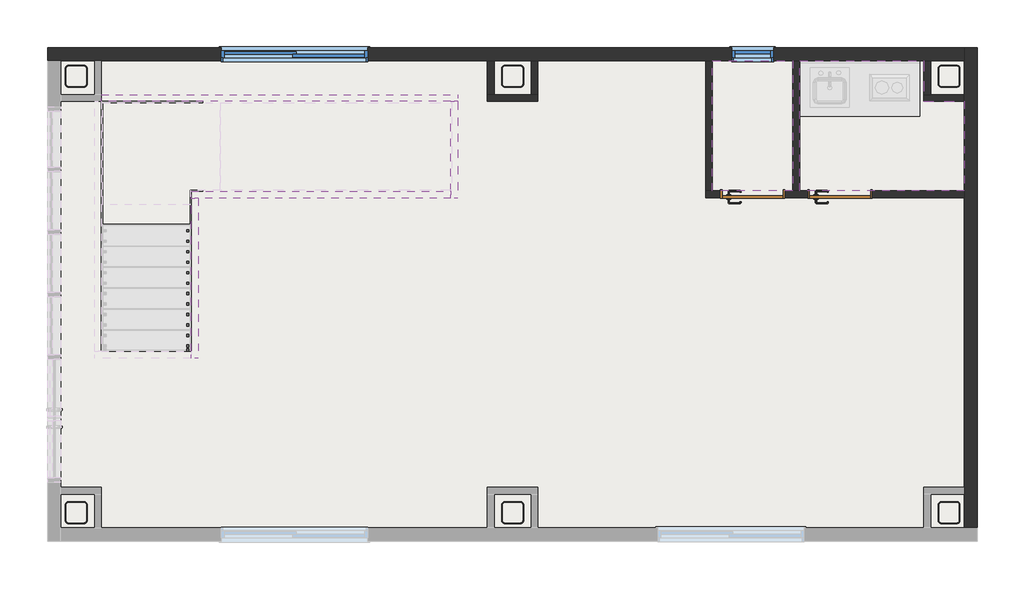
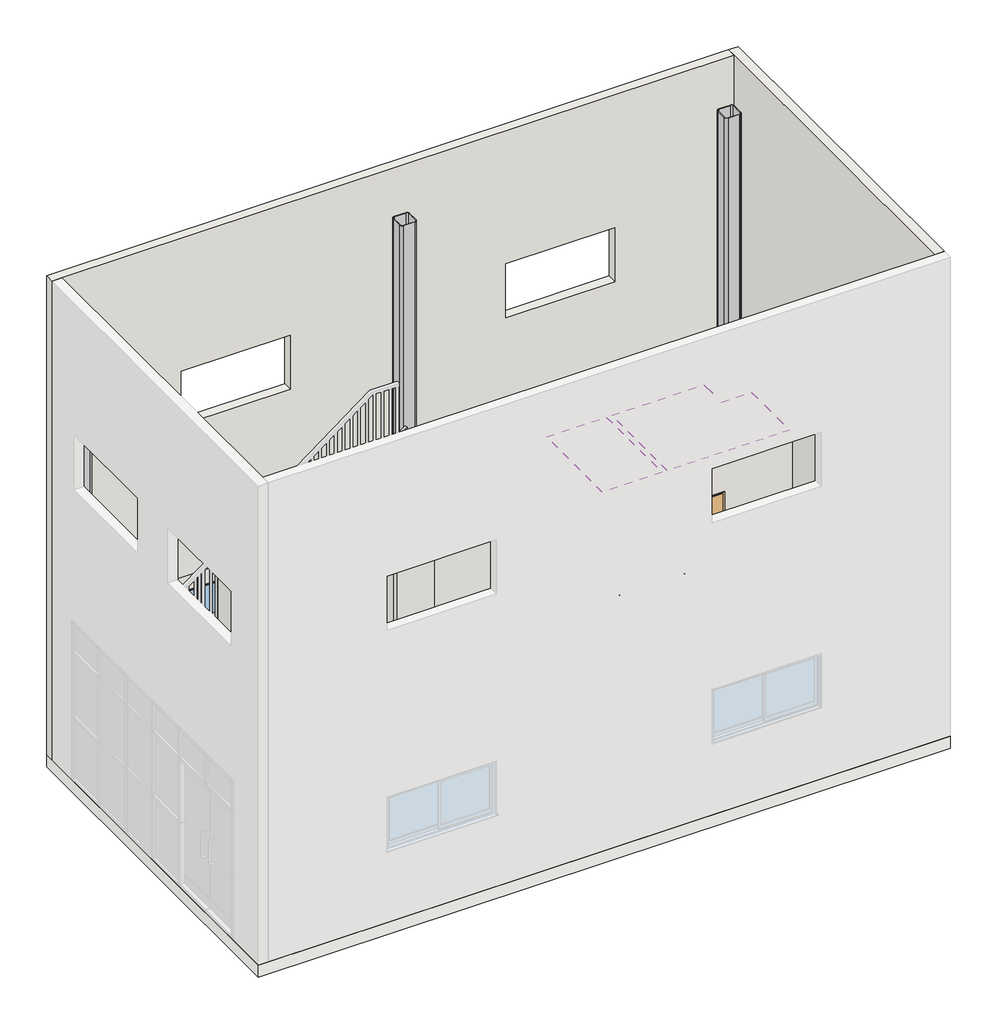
# One storey, part 2 of 3: 14 walls, 6 columns, 2 coverings, 2 doors, 2 windows, 1 railing, 1 slab.
"""IFC4 building model written with IfcOpenShell, lengths in millimetres."""

from ifc_helpers import new_model, si_unit, frame, origin, origin_with_axes, place, context, project, spatial, polyline, outline, extrude, faceted_brep, transform, mapped, element, save
from components import hss250x250x12_d809ddac, w700h2000_2a992a34, w0400h0800_0b9f01bb, w1600h0800_d7cd19be

model = new_model("IFC4")

# Units and contexts
model_context = context("Model", 3, world=origin())
ifc_project = project(units=[si_unit("LENGTHUNIT", "METRE", prefix="MILLI")], contexts=[model_context])

# Site, building, storey
site = spatial("IfcSite", under=ifc_project)
building = spatial("IfcBuilding", under=site)
storey = spatial("IfcBuildingStorey", under=building, Name="1階", Elevation=200.0)

# Columns
placement = place(None, origin())
hss250x250x12_shape = hss250x250x12_d809ddac(model_context)
element("IfcColumn", 1, ObjectType="正方型鋼管-柱 : HSS250x250x12", at=placement, inside=storey, context=model_context, shape_type="MappedRepresentation", body=[
    mapped(hss250x250x12_shape, transform((-5047.3880564, -2413.9617267, 0.0), x_axis=(-1.0, 0.0, 0.0), y_axis=(0.0, -1.0, 0.0), z_axis=(0.0, 0.0, 1.0))),
])
element("IfcColumn", 2, ObjectType="正方型鋼管-柱 : HSS250x250x12", at=placement, inside=storey, context=model_context, shape_type="MappedRepresentation", body=[
    mapped(hss250x250x12_shape, transform((-5047.3880564, 2586.0382733, 0.0), x_axis=(-1.0, 0.0, 0.0), y_axis=(0.0, -1.0, 0.0), z_axis=(0.0, 0.0, 1.0))),
])
element("IfcColumn", 3, ObjectType="正方型鋼管-柱 : HSS250x250x12", at=placement, inside=storey, context=model_context, shape_type="MappedRepresentation", body=[
    mapped(hss250x250x12_shape, transform((-47.3880564, -2413.9617267, 0.0), x_axis=(-1.0, 0.0, 0.0), y_axis=(0.0, -1.0, 0.0), z_axis=(0.0, 0.0, 1.0))),
])
element("IfcColumn", 4, ObjectType="正方型鋼管-柱 : HSS250x250x12", at=placement, inside=storey, context=model_context, shape_type="MappedRepresentation", body=[
    mapped(hss250x250x12_shape, transform((-47.3880564, 2586.0382733, 0.0), x_axis=(-1.0, 0.0, 0.0), y_axis=(0.0, -1.0, 0.0), z_axis=(0.0, 0.0, 1.0))),
])
element("IfcColumn", 5, ObjectType="正方型鋼管-柱 : HSS250x250x12", at=placement, inside=storey, context=model_context, shape_type="MappedRepresentation", body=[
    mapped(hss250x250x12_shape, transform((4952.6119436, -2413.9617267, 0.0), x_axis=(-1.0, 0.0, 0.0), y_axis=(0.0, -1.0, 0.0), z_axis=(0.0, 0.0, 1.0))),
])
element("IfcColumn", 6, ObjectType="正方型鋼管-柱 : HSS250x250x12", at=placement, inside=storey, context=model_context, shape_type="MappedRepresentation", body=[
    mapped(hss250x250x12_shape, transform((4952.6119436, 2586.0382733, 0.0), x_axis=(-1.0, 0.0, 0.0), y_axis=(0.0, -1.0, 0.0), z_axis=(0.0, 0.0, 1.0))),
])

# Coverings
element("IfcCovering", 7, ObjectType="グリッド 600x600mm", at=placement, inside=storey, context=model_context, shape_type="SweptSolid", body=[
    extrude(outline(polyline([(2242.1119436, 2761.0382733), (3163.1119436, 2761.0382733), (3163.1119436, 1275.5382733), (2242.1119436, 1275.5382733), (2242.1119436, 2761.0382733)])), frame((0.0, 0.0, 2800.0), z_axis=(0.0, 0.0, 1.0), x_axis=(1.0, 0.0, 0.0)), (0.0, 0.0, 1.0), 52.0),
])
element("IfcCovering", 8, ObjectType="グリッド 600x600mm", at=placement, inside=storey, context=model_context, shape_type="SweptSolid", body=[
    extrude(outline(polyline([(3242.1119436, 1275.5382733), (3242.1119436, 2761.0382733), (4663.1119436, 2761.0382733), (4663.1119436, 2296.5382733), (5127.6119436, 2296.5382733), (5127.6119436, 1275.5382733), (3242.1119436, 1275.5382733)])), frame((0.0, 0.0, 2800.0), z_axis=(0.0, 0.0, 1.0), x_axis=(1.0, 0.0, 0.0)), (0.0, 0.0, 1.0), 52.0),
])

# Doors
w700h2000_shape = w700h2000_2a992a34(model_context)
element("IfcDoor", 9, ObjectType="片開き : w700h2000", at=placement, inside=storey, context=model_context, shape_type="MappedRepresentation", body=[
    mapped(w700h2000_shape, transform((2702.6119436, 1236.0382733, 200.0), x_axis=(1.0, 0.0, 0.0), y_axis=(0.0, 1.0, 0.0), z_axis=(0.0, 0.0, 1.0))),
])
element("IfcDoor", 10, ObjectType="片開き : w700h2000", at=placement, inside=storey, context=model_context, shape_type="MappedRepresentation", body=[
    mapped(w700h2000_shape, transform((3702.6119436, 1236.0382733, 200.0), x_axis=(1.0, 0.0, 0.0), y_axis=(0.0, 1.0, 0.0), z_axis=(0.0, 0.0, 1.0))),
])

# Railing
element("IfcRailing", 11, ObjectType="1100mm", at=placement, inside=storey, context=model_context, shape_type="SolidModel", body=[
    faceted_brep([(-3793.2880564, -563.9617267, 1480.0), (-3793.2880564, -563.9617267, 1417.5), (-3743.2880564, -563.9617267, 1417.5), (-3743.2880564, -563.9617267, 1480.0), (-3793.2880564, 1116.0382733, 2740.0), (-3793.2880564, 1132.7049399, 2690.0), (-3743.2880564, 1132.7049399, 2690.0), (-3743.2880564, 1116.0382733, 2740.0), (-3793.2880564, 1331.9382733, 2740.0), (-3793.2880564, 1331.9382733, 2690.0), (-3743.2880564, 1281.9382733, 2690.0), (-3743.2880564, 1281.9382733, 2740.0), (-3637.3880564, 1331.9382733, 2740.0), (-3620.7213898, 1331.9382733, 2690.0), (-3620.7213898, 1281.9382733, 2690.0), (-3637.3880564, 1281.9382733, 2740.0), (-3397.3880564, 1331.9382733, 2920.0), (-3367.3880564, 1331.9382733, 2880.0), (-3367.3880564, 1281.9382733, 2880.0), (-3397.3880564, 1281.9382733, 2920.0), (-757.3880564, 1331.9382733, 4900.0), (-757.3880564, 1281.9382733, 4900.0), (-757.3880564, 1281.9382733, 4837.5), (-757.3880564, 1331.9382733, 4837.5)], [[[0, 1, 2, 3]], [[1, 0, 4, 5]], [[2, 1, 5, 6]], [[3, 2, 6, 7]], [[0, 3, 7, 4]], [[5, 4, 8, 9]], [[6, 5, 9, 10]], [[7, 6, 10, 11]], [[4, 7, 11, 8]], [[9, 8, 12, 13]], [[10, 9, 13, 14]], [[11, 10, 14, 15]], [[8, 11, 15, 12]], [[13, 12, 16, 17]], [[14, 13, 17, 18]], [[15, 14, 18, 19]], [[12, 15, 19, 16]], [[20, 21, 22, 23]], [[17, 16, 20, 23]], [[18, 17, 23, 22]], [[19, 18, 22, 21]], [[16, 19, 21, 20]]]),
    extrude(outline(polyline([(4783.125, -829.8880564), (3620.0, -829.8880564), (3620.0, -804.8880564), (4801.875, -804.8880564), (4783.125, -829.8880564)])), frame((0.0, 1294.4382733, 0.0), z_axis=(0.0, 1.0, 0.0), x_axis=(0.0, 0.0, 1.0)), (0.0, 0.0, 1.0), 25.0),
    extrude(outline(polyline([(4693.125, -949.8880564), (3620.0, -949.8880564), (3620.0, -924.8880564), (4711.875, -924.8880564), (4693.125, -949.8880564)])), frame((0.0, 1294.4382733, 0.0), z_axis=(0.0, 1.0, 0.0), x_axis=(0.0, 0.0, 1.0)), (0.0, 0.0, 1.0), 25.0),
    extrude(outline(polyline([(4603.125, -1069.8880564), (3440.0, -1069.8880564), (3440.0, -1044.8880564), (4621.875, -1044.8880564), (4603.125, -1069.8880564)])), frame((0.0, 1294.4382733, 0.0), z_axis=(0.0, 1.0, 0.0), x_axis=(0.0, 0.0, 1.0)), (0.0, 0.0, 1.0), 25.0),
    extrude(outline(polyline([(4513.125, -1189.8880564), (3440.0, -1189.8880564), (3440.0, -1164.8880564), (4531.875, -1164.8880564), (4513.125, -1189.8880564)])), frame((0.0, 1294.4382733, 0.0), z_axis=(0.0, 1.0, 0.0), x_axis=(0.0, 0.0, 1.0)), (0.0, 0.0, 1.0), 25.0),
    extrude(outline(polyline([(4423.125, -1309.8880564), (3260.0, -1309.8880564), (3260.0, -1284.8880564), (4441.875, -1284.8880564), (4423.125, -1309.8880564)])), frame((0.0, 1294.4382733, 0.0), z_axis=(0.0, 1.0, 0.0), x_axis=(0.0, 0.0, 1.0)), (0.0, 0.0, 1.0), 25.0),
    extrude(outline(polyline([(4333.125, -1429.8880564), (3260.0, -1429.8880564), (3260.0, -1404.8880564), (4351.875, -1404.8880564), (4333.125, -1429.8880564)])), frame((0.0, 1294.4382733, 0.0), z_axis=(0.0, 1.0, 0.0), x_axis=(0.0, 0.0, 1.0)), (0.0, 0.0, 1.0), 25.0),
    extrude(outline(polyline([(4243.125, -1549.8880564), (3080.0, -1549.8880564), (3080.0, -1524.8880564), (4261.875, -1524.8880564), (4243.125, -1549.8880564)])), frame((0.0, 1294.4382733, 0.0), z_axis=(0.0, 1.0, 0.0), x_axis=(0.0, 0.0, 1.0)), (0.0, 0.0, 1.0), 25.0),
    extrude(outline(polyline([(4153.125, -1669.8880564), (3080.0, -1669.8880564), (3080.0, -1644.8880564), (4171.875, -1644.8880564), (4153.125, -1669.8880564)])), frame((0.0, 1294.4382733, 0.0), z_axis=(0.0, 1.0, 0.0), x_axis=(0.0, 0.0, 1.0)), (0.0, 0.0, 1.0), 25.0),
    extrude(outline(polyline([(4063.125, -1789.8880564), (2900.0, -1789.8880564), (2900.0, -1764.8880564), (4081.875, -1764.8880564), (4063.125, -1789.8880564)])), frame((0.0, 1294.4382733, 0.0), z_axis=(0.0, 1.0, 0.0), x_axis=(0.0, 0.0, 1.0)), (0.0, 0.0, 1.0), 25.0),
    extrude(outline(polyline([(3973.125, -1909.8880564), (2900.0, -1909.8880564), (2900.0, -1884.8880564), (3991.875, -1884.8880564), (3973.125, -1909.8880564)])), frame((0.0, 1294.4382733, 0.0), z_axis=(0.0, 1.0, 0.0), x_axis=(0.0, 0.0, 1.0)), (0.0, 0.0, 1.0), 25.0),
    extrude(outline(polyline([(3883.125, -2029.8880564), (2720.0, -2029.8880564), (2720.0, -2004.8880564), (3901.875, -2004.8880564), (3883.125, -2029.8880564)])), frame((0.0, 1294.4382733, 0.0), z_axis=(0.0, 1.0, 0.0), x_axis=(0.0, 0.0, 1.0)), (0.0, 0.0, 1.0), 25.0),
    extrude(outline(polyline([(3793.125, -2149.8880564), (2720.0, -2149.8880564), (2720.0, -2124.8880564), (3811.875, -2124.8880564), (3793.125, -2149.8880564)])), frame((0.0, 1294.4382733, 0.0), z_axis=(0.0, 1.0, 0.0), x_axis=(0.0, 0.0, 1.0)), (0.0, 0.0, 1.0), 25.0),
    extrude(outline(polyline([(3703.125, -2269.8880564), (2540.0, -2269.8880564), (2540.0, -2244.8880564), (3721.875, -2244.8880564), (3703.125, -2269.8880564)])), frame((0.0, 1294.4382733, 0.0), z_axis=(0.0, 1.0, 0.0), x_axis=(0.0, 0.0, 1.0)), (0.0, 0.0, 1.0), 25.0),
    extrude(outline(polyline([(3613.125, -2389.8880564), (2540.0, -2389.8880564), (2540.0, -2364.8880564), (3631.875, -2364.8880564), (3613.125, -2389.8880564)])), frame((0.0, 1294.4382733, 0.0), z_axis=(0.0, 1.0, 0.0), x_axis=(0.0, 0.0, 1.0)), (0.0, 0.0, 1.0), 25.0),
    extrude(outline(polyline([(3523.125, -2509.8880564), (2360.0, -2509.8880564), (2360.0, -2484.8880564), (3541.875, -2484.8880564), (3523.125, -2509.8880564)])), frame((0.0, 1294.4382733, 0.0), z_axis=(0.0, 1.0, 0.0), x_axis=(0.0, 0.0, 1.0)), (0.0, 0.0, 1.0), 25.0),
    extrude(outline(polyline([(3433.125, -2629.8880564), (2360.0, -2629.8880564), (2360.0, -2604.8880564), (3451.875, -2604.8880564), (3433.125, -2629.8880564)])), frame((0.0, 1294.4382733, 0.0), z_axis=(0.0, 1.0, 0.0), x_axis=(0.0, 0.0, 1.0)), (0.0, 0.0, 1.0), 25.0),
    extrude(outline(polyline([(3343.125, -2749.8880564), (2180.0, -2749.8880564), (2180.0, -2724.8880564), (3361.875, -2724.8880564), (3343.125, -2749.8880564)])), frame((0.0, 1294.4382733, 0.0), z_axis=(0.0, 1.0, 0.0), x_axis=(0.0, 0.0, 1.0)), (0.0, 0.0, 1.0), 25.0),
    extrude(outline(polyline([(3253.125, -2869.8880564), (2180.0, -2869.8880564), (2180.0, -2844.8880564), (3271.875, -2844.8880564), (3253.125, -2869.8880564)])), frame((0.0, 1294.4382733, 0.0), z_axis=(0.0, 1.0, 0.0), x_axis=(0.0, 0.0, 1.0)), (0.0, 0.0, 1.0), 25.0),
    extrude(outline(polyline([(3163.125, -2989.8880564), (2000.0, -2989.8880564), (2000.0, -2964.8880564), (3181.875, -2964.8880564), (3163.125, -2989.8880564)])), frame((0.0, 1294.4382733, 0.0), z_axis=(0.0, 1.0, 0.0), x_axis=(0.0, 0.0, 1.0)), (0.0, 0.0, 1.0), 25.0),
    extrude(outline(polyline([(3073.125, -3109.8880564), (2000.0, -3109.8880564), (2000.0, -3084.8880564), (3091.875, -3084.8880564), (3073.125, -3109.8880564)])), frame((0.0, 1294.4382733, 0.0), z_axis=(0.0, 1.0, 0.0), x_axis=(0.0, 0.0, 1.0)), (0.0, 0.0, 1.0), 25.0),
    extrude(outline(polyline([(2983.125, -3229.8880564), (1820.0, -3229.8880564), (1820.0, -3204.8880564), (3001.875, -3204.8880564), (2983.125, -3229.8880564)])), frame((0.0, 1294.4382733, 0.0), z_axis=(0.0, 1.0, 0.0), x_axis=(0.0, 0.0, 1.0)), (0.0, 0.0, 1.0), 25.0),
    extrude(outline(polyline([(2893.125, -3349.8880564), (1820.0, -3349.8880564), (1820.0, -3324.8880564), (2911.875, -3324.8880564), (2893.125, -3349.8880564)])), frame((0.0, 1294.4382733, 0.0), z_axis=(0.0, 1.0, 0.0), x_axis=(0.0, 0.0, 1.0)), (0.0, 0.0, 1.0), 25.0),
    extrude(outline(polyline([(2794.95, -3480.7880564), (1640.0, -3480.7880564), (1640.0, -3455.7880564), (2813.7, -3455.7880564), (2794.95, -3480.7880564)])), frame((0.0, 1294.4382733, 0.0), z_axis=(0.0, 1.0, 0.0), x_axis=(0.0, 0.0, 1.0)), (0.0, 0.0, 1.0), 25.0),
    extrude(outline(polyline([(2704.95, -3600.7880564), (1640.0, -3600.7880564), (1640.0, -3575.7880564), (2723.7, -3575.7880564), (2704.95, -3600.7880564)])), frame((0.0, 1294.4382733, 0.0), z_axis=(0.0, 1.0, 0.0), x_axis=(0.0, 0.0, 1.0)), (0.0, 0.0, 1.0), 25.0),
    extrude(outline(polyline([(-3720.7880564, 1294.4382733), (-3720.7880564, 1319.4382733), (-3695.7880564, 1319.4382733), (-3695.7880564, 1294.4382733), (-3720.7880564, 1294.4382733)])), frame((0.0, 0.0, 1640.0), z_axis=(0.0, 0.0, 1.0), x_axis=(1.0, 0.0, 0.0)), (0.0, 0.0, 1.0), 1050.0),
    extrude(outline(polyline([(-3755.7880564, 1283.5382733), (-3780.7880564, 1283.5382733), (-3780.7880564, 1308.5382733), (-3755.7880564, 1308.5382733), (-3755.7880564, 1283.5382733)])), frame((0.0, 0.0, 1640.0), z_axis=(0.0, 0.0, 1.0), x_axis=(1.0, 0.0, 0.0)), (0.0, 0.0, 1.0), 1050.0),
    extrude(outline(polyline([(-3755.7880564, 1163.5382733), (-3780.7880564, 1163.5382733), (-3780.7880564, 1188.5382733), (-3755.7880564, 1188.5382733), (-3755.7880564, 1163.5382733)])), frame((0.0, 0.0, 1640.0), z_axis=(0.0, 0.0, 1.0), x_axis=(1.0, 0.0, 0.0)), (0.0, 0.0, 1.0), 1050.0),
    extrude(outline(polyline([(1043.5382733, 1460.0), (1043.5382733, 2623.125), (1068.5382733, 2641.875), (1068.5382733, 1460.0), (1043.5382733, 1460.0)])), frame((-3780.7880564, 0.0, 0.0), z_axis=(1.0, 0.0, 0.0), x_axis=(0.0, 1.0, 0.0)), (0.0, 0.0, 1.0), 25.0),
    extrude(outline(polyline([(923.5382733, 1460.0), (923.5382733, 2533.125), (948.5382733, 2551.875), (948.5382733, 1460.0), (923.5382733, 1460.0)])), frame((-3780.7880564, 0.0, 0.0), z_axis=(1.0, 0.0, 0.0), x_axis=(0.0, 1.0, 0.0)), (0.0, 0.0, 1.0), 25.0),
    extrude(outline(polyline([(803.5382733, 1280.0), (803.5382733, 2443.125), (828.5382733, 2461.875), (828.5382733, 1280.0), (803.5382733, 1280.0)])), frame((-3780.7880564, 0.0, 0.0), z_axis=(1.0, 0.0, 0.0), x_axis=(0.0, 1.0, 0.0)), (0.0, 0.0, 1.0), 25.0),
    extrude(outline(polyline([(683.5382733, 1280.0), (683.5382733, 2353.125), (708.5382733, 2371.875), (708.5382733, 1280.0), (683.5382733, 1280.0)])), frame((-3780.7880564, 0.0, 0.0), z_axis=(1.0, 0.0, 0.0), x_axis=(0.0, 1.0, 0.0)), (0.0, 0.0, 1.0), 25.0),
    extrude(outline(polyline([(563.5382733, 1100.0), (563.5382733, 2263.125), (588.5382733, 2281.875), (588.5382733, 1100.0), (563.5382733, 1100.0)])), frame((-3780.7880564, 0.0, 0.0), z_axis=(1.0, 0.0, 0.0), x_axis=(0.0, 1.0, 0.0)), (0.0, 0.0, 1.0), 25.0),
    extrude(outline(polyline([(443.5382733, 1100.0), (443.5382733, 2173.125), (468.5382733, 2191.875), (468.5382733, 1100.0), (443.5382733, 1100.0)])), frame((-3780.7880564, 0.0, 0.0), z_axis=(1.0, 0.0, 0.0), x_axis=(0.0, 1.0, 0.0)), (0.0, 0.0, 1.0), 25.0),
    extrude(outline(polyline([(323.5382733, 920.0), (323.5382733, 2083.125), (348.5382733, 2101.875), (348.5382733, 920.0), (323.5382733, 920.0)])), frame((-3780.7880564, 0.0, 0.0), z_axis=(1.0, 0.0, 0.0), x_axis=(0.0, 1.0, 0.0)), (0.0, 0.0, 1.0), 25.0),
    extrude(outline(polyline([(203.5382733, 920.0), (203.5382733, 1993.125), (228.5382733, 2011.875), (228.5382733, 920.0), (203.5382733, 920.0)])), frame((-3780.7880564, 0.0, 0.0), z_axis=(1.0, 0.0, 0.0), x_axis=(0.0, 1.0, 0.0)), (0.0, 0.0, 1.0), 25.0),
    extrude(outline(polyline([(83.5382733, 740.0), (83.5382733, 1903.125), (108.5382733, 1921.875), (108.5382733, 740.0), (83.5382733, 740.0)])), frame((-3780.7880564, 0.0, 0.0), z_axis=(1.0, 0.0, 0.0), x_axis=(0.0, 1.0, 0.0)), (0.0, 0.0, 1.0), 25.0),
    extrude(outline(polyline([(-36.4617267, 740.0), (-36.4617267, 1813.125), (-11.4617267, 1831.875), (-11.4617267, 740.0), (-36.4617267, 740.0)])), frame((-3780.7880564, 0.0, 0.0), z_axis=(1.0, 0.0, 0.0), x_axis=(0.0, 1.0, 0.0)), (0.0, 0.0, 1.0), 25.0),
    extrude(outline(polyline([(-156.4617267, 560.0), (-156.4617267, 1723.125), (-131.4617267, 1741.875), (-131.4617267, 560.0), (-156.4617267, 560.0)])), frame((-3780.7880564, 0.0, 0.0), z_axis=(1.0, 0.0, 0.0), x_axis=(0.0, 1.0, 0.0)), (0.0, 0.0, 1.0), 25.0),
    extrude(outline(polyline([(-276.4617267, 560.0), (-276.4617267, 1633.125), (-251.4617267, 1651.875), (-251.4617267, 560.0), (-276.4617267, 560.0)])), frame((-3780.7880564, 0.0, 0.0), z_axis=(1.0, 0.0, 0.0), x_axis=(0.0, 1.0, 0.0)), (0.0, 0.0, 1.0), 25.0),
    extrude(outline(polyline([(-396.4617267, 380.0), (-396.4617267, 1543.125), (-371.4617267, 1561.875), (-371.4617267, 380.0), (-396.4617267, 380.0)])), frame((-3780.7880564, 0.0, 0.0), z_axis=(1.0, 0.0, 0.0), x_axis=(0.0, 1.0, 0.0)), (0.0, 0.0, 1.0), 25.0),
    extrude(outline(polyline([(-516.4617267, 380.0), (-516.4617267, 1453.125), (-491.4617267, 1471.875), (-491.4617267, 380.0), (-516.4617267, 380.0)])), frame((-3780.7880564, 0.0, 0.0), z_axis=(1.0, 0.0, 0.0), x_axis=(0.0, 1.0, 0.0)), (0.0, 0.0, 1.0), 25.0),
    extrude(outline(polyline([(2848.125, -3409.8880564), (1640.0, -3409.8880564), (1640.0, -3384.8880564), (2866.875, -3384.8880564), (2848.125, -3409.8880564)])), frame((0.0, 1294.4382733, 0.0), z_axis=(0.0, 1.0, 0.0), x_axis=(0.0, 0.0, 1.0)), (0.0, 0.0, 1.0), 25.0),
    extrude(outline(polyline([(-3755.7880564, 1294.4382733), (-3780.7880564, 1294.4382733), (-3780.7880564, 1319.4382733), (-3755.7880564, 1319.4382733), (-3755.7880564, 1294.4382733)])), frame((0.0, 0.0, 1640.0), z_axis=(0.0, 0.0, 1.0), x_axis=(1.0, 0.0, 0.0)), (0.0, 0.0, 1.0), 1050.0),
    extrude(outline(polyline([(1103.5382733, 1640.0), (1103.5382733, 2668.125), (1128.5382733, 2686.875), (1128.5382733, 1640.0), (1103.5382733, 1640.0)])), frame((-3780.7880564, 0.0, 0.0), z_axis=(1.0, 0.0, 0.0), x_axis=(0.0, 1.0, 0.0)), (0.0, 0.0, 1.0), 25.0),
    extrude(outline(polyline([(4818.75, -782.3880564), (3620.0, -782.3880564), (3620.0, -757.3880564), (4837.5, -757.3880564), (4818.75, -782.3880564)])), frame((0.0, 1294.4382733, 0.0), z_axis=(0.0, 1.0, 0.0), x_axis=(0.0, 0.0, 1.0)), (0.0, 0.0, 1.0), 25.0),
    extrude(outline(polyline([(-563.9617267, 380.0), (-563.9617267, 1417.5), (-538.9617267, 1436.25), (-538.9617267, 380.0), (-563.9617267, 380.0)])), frame((-3780.7880564, 0.0, 0.0), z_axis=(1.0, 0.0, 0.0), x_axis=(0.0, 1.0, 0.0)), (0.0, 0.0, 1.0), 25.0),
])

# Slab
element("IfcSlab", 12, ObjectType="一般 200 mm", at=placement, inside=storey, context=model_context, shape_type="SweptSolid", body=[
    extrude(outline(polyline([(5277.6119436, 2911.0382733), (5277.6119436, -2738.9617267), (-5372.3880564, -2738.9617267), (-5372.3880564, 2911.0382733), (5277.6119436, 2911.0382733)])), origin_with_axes(), (0.0, 0.0, 1.0), 200.0),
])

# Walls
element("IfcWall", 13, ObjectType="標準-150mm", at=placement, inside=storey, context=model_context, shape_type="Brep", body=[
    faceted_brep([(-5372.3880564, 2761.0382733, 200.0), (-5222.3880564, 2761.0382733, 200.0), (-4836.8880564, 2761.0382733, 200.0), (-4757.8880564, 2761.0382733, 200.0), (-336.8880564, 2761.0382733, 200.0), (-257.8880564, 2761.0382733, 200.0), (163.1119436, 2761.0382733, 200.0), (242.1119436, 2761.0382733, 200.0), (2163.1119436, 2761.0382733, 200.0), (2242.1119436, 2761.0382733, 200.0), (3163.1119436, 2761.0382733, 200.0), (3242.1119436, 2761.0382733, 200.0), (4663.1119436, 2761.0382733, 200.0), (4742.1119436, 2761.0382733, 200.0), (5127.6119436, 2761.0382733, 200.0), (5127.6119436, 2761.0382733, 8000.0), (-5222.3880564, 2761.0382733, 8000.0), (-5372.3880564, 2761.0382733, 8000.0), (-1707.3880564, 2761.0382733, 2240.0), (-1707.3880564, 2761.0382733, 1360.0), (-3387.3880564, 2761.0382733, 1360.0), (-3387.3880564, 2761.0382733, 2240.0), (2942.6119436, 2761.0382733, 2240.0), (2942.6119436, 2761.0382733, 1360.0), (2462.6119436, 2761.0382733, 1360.0), (2462.6119436, 2761.0382733, 2240.0), (3292.6119436, 2761.0382733, 5840.0), (3292.6119436, 2761.0382733, 4960.0), (1612.6119436, 2761.0382733, 4960.0), (1612.6119436, 2761.0382733, 5840.0), (-1707.3880564, 2761.0382733, 5840.0), (-1707.3880564, 2761.0382733, 4960.0), (-3387.3880564, 2761.0382733, 4960.0), (-3387.3880564, 2761.0382733, 5840.0), (-5372.3880564, 2911.0382733, 200.0), (-5372.3880564, 2911.0382733, 8000.0), (5127.6119436, 2911.0382733, 8000.0), (5127.6119436, 2911.0382733, 200.0), (-1707.3880564, 2911.0382733, 2240.0), (-3387.3880564, 2911.0382733, 2240.0), (-3387.3880564, 2911.0382733, 1360.0), (-1707.3880564, 2911.0382733, 1360.0), (2942.6119436, 2911.0382733, 2240.0), (2462.6119436, 2911.0382733, 2240.0), (2462.6119436, 2911.0382733, 1360.0), (2942.6119436, 2911.0382733, 1360.0), (3292.6119436, 2911.0382733, 5840.0), (1612.6119436, 2911.0382733, 5840.0), (1612.6119436, 2911.0382733, 4960.0), (3292.6119436, 2911.0382733, 4960.0), (-1707.3880564, 2911.0382733, 5840.0), (-3387.3880564, 2911.0382733, 5840.0), (-3387.3880564, 2911.0382733, 4960.0), (-1707.3880564, 2911.0382733, 4960.0)], [[[0, 1, 2, 3, 4, 5, 6, 7, 8, 9, 10, 11, 12, 13, 14, 15, 16, 17], [18, 19, 20, 21], [22, 23, 24, 25], [26, 27, 28, 29], [30, 31, 32, 33]], [[34, 35, 36, 37], [38, 39, 40, 41], [42, 43, 44, 45], [46, 47, 48, 49], [50, 51, 52, 53]], [[14, 13, 12, 11, 10, 9, 8, 7, 6, 5, 4, 3, 2, 1, 0, 34, 37]], [[17, 16, 15, 36, 35]], [[0, 17, 35, 34]], [[15, 14, 37, 36]], [[19, 18, 38, 41]], [[20, 19, 41, 40]], [[21, 20, 40, 39]], [[18, 21, 39, 38]], [[23, 22, 42, 45]], [[24, 23, 45, 44]], [[25, 24, 44, 43]], [[22, 25, 43, 42]], [[27, 26, 46, 49]], [[28, 27, 49, 48]], [[29, 28, 48, 47]], [[26, 29, 47, 46]], [[31, 30, 50, 53]], [[32, 31, 53, 52]], [[33, 32, 52, 51]], [[30, 33, 51, 50]]]),
])
element("IfcWall", 14, ObjectType="標準-150mm", at=placement, inside=storey, context=model_context, shape_type="Brep", body=[
    faceted_brep([(5127.6119436, 2911.0382733, 200.0), (5127.6119436, 2761.0382733, 200.0), (5127.6119436, 2375.5382733, 200.0), (5127.6119436, 2296.5382733, 200.0), (5127.6119436, 1275.5382733, 200.0), (5127.6119436, 1196.5382733, 200.0), (5127.6119436, -2124.4617267, 200.0), (5127.6119436, -2203.4617267, 200.0), (5127.6119436, -2588.9617267, 200.0), (5127.6119436, -2588.9617267, 8000.0), (5127.6119436, 2761.0382733, 8000.0), (5127.6119436, 2911.0382733, 8000.0), (5277.6119436, 2911.0382733, 200.0), (5277.6119436, 2911.0382733, 8000.0), (5277.6119436, -2588.9617267, 8000.0), (5277.6119436, -2588.9617267, 200.0)], [[[0, 1, 2, 3, 4, 5, 6, 7, 8, 9, 10, 11]], [[12, 13, 14, 15]], [[8, 7, 6, 5, 4, 3, 2, 1, 0, 12, 15]], [[11, 10, 9, 14, 13]], [[0, 11, 13, 12]], [[9, 8, 15, 14]]]),
])
element("IfcWall", 15, ObjectType="内壁-79mm 間仕切り(1時間)", at=placement, inside=storey, context=model_context, shape_type="SweptSolid", body=[
    extrude(outline(polyline([(163.1119436, 2375.5382733), (163.1119436, 2761.0382733), (242.1119436, 2761.0382733), (242.1119436, 2375.5382733), (163.1119436, 2375.5382733)])), frame((0.0, 0.0, 200.0), z_axis=(0.0, 0.0, 1.0), x_axis=(1.0, 0.0, 0.0)), (0.0, 0.0, 1.0), 3450.0),
])
element("IfcWall", 16, ObjectType="内壁-79mm 間仕切り(1時間)", at=placement, inside=storey, context=model_context, shape_type="Brep", body=[
    faceted_brep([(242.1119436, 2375.5382733, 200.0), (163.1119436, 2375.5382733, 200.0), (-257.8880564, 2375.5382733, 200.0), (-336.8880564, 2375.5382733, 200.0), (-336.8880564, 2375.5382733, 3650.0), (-257.8880564, 2375.5382733, 3650.0), (163.1119436, 2375.5382733, 3650.0), (242.1119436, 2375.5382733, 3650.0), (242.1119436, 2296.5382733, 200.0), (242.1119436, 2296.5382733, 3650.0), (-336.8880564, 2296.5382733, 3650.0), (-336.8880564, 2296.5382733, 200.0)], [[[0, 1, 2, 3, 4, 5, 6, 7]], [[8, 9, 10, 11]], [[3, 2, 1, 0, 8, 11]], [[7, 6, 5, 4, 10, 9]], [[0, 7, 9, 8]], [[4, 3, 11, 10]]]),
])
element("IfcWall", 17, ObjectType="内壁-79mm 間仕切り(1時間)", at=placement, inside=storey, context=model_context, shape_type="SweptSolid", body=[
    extrude(outline(polyline([(-257.8880564, 2761.0382733), (-257.8880564, 2375.5382733), (-336.8880564, 2375.5382733), (-336.8880564, 2761.0382733), (-257.8880564, 2761.0382733)])), frame((0.0, 0.0, 200.0), z_axis=(0.0, 0.0, 1.0), x_axis=(1.0, 0.0, 0.0)), (0.0, 0.0, 1.0), 3450.0),
])
element("IfcWall", 18, ObjectType="内壁-79mm 間仕切り(1時間)", at=placement, inside=storey, context=model_context, shape_type="SweptSolid", body=[
    extrude(outline(polyline([(4663.1119436, 2375.5382733), (4663.1119436, 2761.0382733), (4742.1119436, 2761.0382733), (4742.1119436, 2375.5382733), (4663.1119436, 2375.5382733)])), frame((0.0, 0.0, 200.0), z_axis=(0.0, 0.0, 1.0), x_axis=(1.0, 0.0, 0.0)), (0.0, 0.0, 1.0), 3450.0),
])
element("IfcWall", 19, ObjectType="内壁-79mm 間仕切り(1時間)", at=placement, inside=storey, context=model_context, shape_type="Brep", body=[
    faceted_brep([(4663.1119436, 2296.5382733, 200.0), (5127.6119436, 2296.5382733, 200.0), (5127.6119436, 2296.5382733, 3650.0), (4663.1119436, 2296.5382733, 3650.0), (4663.1119436, 2375.5382733, 200.0), (4663.1119436, 2375.5382733, 3650.0), (4742.1119436, 2375.5382733, 3650.0), (5127.6119436, 2375.5382733, 3650.0), (5127.6119436, 2375.5382733, 200.0), (4742.1119436, 2375.5382733, 200.0)], [[[0, 1, 2, 3]], [[4, 5, 6, 7, 8, 9]], [[1, 0, 4, 9, 8]], [[3, 2, 7, 6, 5]], [[0, 3, 5, 4]], [[2, 1, 8, 7]]]),
])
element("IfcWall", 20, ObjectType="内壁-79mm 間仕切り(1時間)", at=placement, inside=storey, context=model_context, shape_type="Brep", body=[
    faceted_brep([(3332.6119436, 1275.5382733, 2220.0), (3332.6119436, 1275.5382733, 200.0), (3242.1119436, 1275.5382733, 200.0), (3163.1119436, 1275.5382733, 200.0), (3072.6119436, 1275.5382733, 200.0), (3072.6119436, 1275.5382733, 2220.0), (2332.6119436, 1275.5382733, 2220.0), (2332.6119436, 1275.5382733, 200.0), (2242.1119436, 1275.5382733, 200.0), (2163.1119436, 1275.5382733, 200.0), (2163.1119436, 1275.5382733, 3650.0), (2242.1119436, 1275.5382733, 3650.0), (3163.1119436, 1275.5382733, 3650.0), (3242.1119436, 1275.5382733, 3650.0), (5127.6119436, 1275.5382733, 3650.0), (5127.6119436, 1275.5382733, 200.0), (4072.6119436, 1275.5382733, 200.0), (4072.6119436, 1275.5382733, 2220.0), (3072.6119436, 1196.5382733, 200.0), (3332.6119436, 1196.5382733, 200.0), (3332.6119436, 1196.5382733, 2220.0), (4072.6119436, 1196.5382733, 2220.0), (4072.6119436, 1196.5382733, 200.0), (5127.6119436, 1196.5382733, 200.0), (5127.6119436, 1196.5382733, 3650.0), (2163.1119436, 1196.5382733, 3650.0), (2163.1119436, 1196.5382733, 200.0), (2332.6119436, 1196.5382733, 200.0), (2332.6119436, 1196.5382733, 2220.0), (3072.6119436, 1196.5382733, 2220.0)], [[[0, 1, 2, 3, 4, 5, 6, 7, 8, 9, 10, 11, 12, 13, 14, 15, 16, 17]], [[18, 19, 20, 21, 22, 23, 24, 25, 26, 27, 28, 29]], [[9, 8, 7, 27, 26]], [[16, 15, 23, 22]], [[4, 3, 2, 1, 19, 18]], [[14, 13, 12, 11, 10, 25, 24]], [[15, 14, 24, 23]], [[10, 9, 26, 25]], [[18, 29, 5, 4]], [[28, 27, 7, 6]], [[29, 28, 6, 5]], [[22, 21, 17, 16]], [[20, 19, 1, 0]], [[21, 20, 0, 17]]]),
])
element("IfcWall", 21, ObjectType="内壁-79mm 間仕切り(1時間)", at=placement, inside=storey, context=model_context, shape_type="SweptSolid", body=[
    extrude(outline(polyline([(2242.1119436, 2761.0382733), (2242.1119436, 1275.5382733), (2163.1119436, 1275.5382733), (2163.1119436, 2761.0382733), (2242.1119436, 2761.0382733)])), frame((0.0, 0.0, 200.0), z_axis=(0.0, 0.0, 1.0), x_axis=(1.0, 0.0, 0.0)), (0.0, 0.0, 1.0), 3450.0),
])
element("IfcWall", 22, ObjectType="内壁-79mm 間仕切り(1時間)", at=placement, inside=storey, context=model_context, shape_type="SweptSolid", body=[
    extrude(outline(polyline([(3163.1119436, 1275.5382733), (3163.1119436, 2761.0382733), (3242.1119436, 2761.0382733), (3242.1119436, 1275.5382733), (3163.1119436, 1275.5382733)])), frame((0.0, 0.0, 200.0), z_axis=(0.0, 0.0, 1.0), x_axis=(1.0, 0.0, 0.0)), (0.0, 0.0, 1.0), 3450.0),
])
element("IfcWall", 23, ObjectType="内壁-79mm 間仕切り(1時間)", at=placement, inside=storey, context=model_context, shape_type="Brep", body=[
    faceted_brep([(-4757.8880564, 2296.5382733, 2852.0), (-757.3880564, 2296.5382733, 2852.0), (-678.3880564, 2296.5382733, 2852.0), (-678.3880564, 2296.5382733, 3650.0), (-757.3880564, 2296.5382733, 3650.0), (-4757.8880564, 2296.5382733, 3650.0), (-4757.8880564, 2375.5382733, 2852.0), (-4757.8880564, 2375.5382733, 3650.0), (-678.3880564, 2375.5382733, 3650.0), (-678.3880564, 2375.5382733, 2852.0)], [[[0, 1, 2, 3, 4, 5]], [[6, 7, 8, 9]], [[2, 1, 0, 6, 9]], [[5, 4, 3, 8, 7]], [[0, 5, 7, 6]], [[3, 2, 9, 8]]]),
])
element("IfcWall", 24, ObjectType="内壁-79mm 間仕切り(1時間)", at=placement, inside=storey, context=model_context, shape_type="Brep", body=[
    faceted_brep([(-757.3880564, 2296.5382733, 2852.0), (-757.3880564, 1266.5382733, 2852.0), (-757.3880564, 1187.5382733, 2852.0), (-757.3880564, 1187.5382733, 3650.0), (-757.3880564, 1266.5382733, 3650.0), (-757.3880564, 2296.5382733, 3650.0), (-678.3880564, 2296.5382733, 2852.0), (-678.3880564, 2296.5382733, 3650.0), (-678.3880564, 1187.5382733, 3650.0), (-678.3880564, 1187.5382733, 2852.0)], [[[0, 1, 2, 3, 4, 5]], [[6, 7, 8, 9]], [[2, 1, 0, 6, 9]], [[5, 4, 3, 8, 7]], [[0, 5, 7, 6]], [[3, 2, 9, 8]]]),
])
element("IfcWall", 25, ObjectType="内壁-79mm 間仕切り(1時間)", at=placement, inside=storey, context=model_context, shape_type="Brep", body=[
    faceted_brep([(-757.3880564, 1266.5382733, 2852.0), (-3727.8880564, 1266.5382733, 2852.0), (-3727.8880564, 1266.5382733, 3650.0), (-757.3880564, 1266.5382733, 3650.0), (-757.3880564, 1187.5382733, 2852.0), (-757.3880564, 1187.5382733, 3650.0), (-3648.8880564, 1187.5382733, 3650.0), (-3727.8880564, 1187.5382733, 3650.0), (-3727.8880564, 1187.5382733, 2852.0), (-3648.8880564, 1187.5382733, 2852.0)], [[[0, 1, 2, 3]], [[4, 5, 6, 7, 8, 9]], [[1, 0, 4, 9, 8]], [[3, 2, 7, 6, 5]], [[0, 3, 5, 4]], [[2, 1, 8, 7]]]),
])
element("IfcWall", 26, ObjectType="内壁-79mm 間仕切り(1時間)", at=placement, inside=storey, context=model_context, shape_type="Brep", body=[
    faceted_brep([(-3727.8880564, 1187.5382733, 2852.0), (-3727.8880564, -563.9617267, 2852.0), (-3727.8880564, -642.9617267, 2852.0), (-3727.8880564, -642.9617267, 3650.0), (-3727.8880564, -563.9617267, 3650.0), (-3727.8880564, 1187.5382733, 3650.0), (-3648.8880564, 1187.5382733, 2852.0), (-3648.8880564, 1187.5382733, 3650.0), (-3648.8880564, -642.9617267, 3650.0), (-3648.8880564, -642.9617267, 2852.0)], [[[0, 1, 2, 3, 4, 5]], [[6, 7, 8, 9]], [[2, 1, 0, 6, 9]], [[5, 4, 3, 8, 7]], [[0, 5, 7, 6]], [[3, 2, 9, 8]]]),
])

# Windows
w0400h0800_shape = w0400h0800_0b9f01bb(model_context)
element("IfcWindow", 27, ObjectType="縦すべり窓 : w0400h0800", at=placement, inside=storey, context=model_context, shape_type="MappedRepresentation", body=[
    mapped(w0400h0800_shape, transform((2702.6119436, 2836.0382733, 200.0), x_axis=(1.0, 0.0, 0.0), y_axis=(0.0, 1.0, 0.0), z_axis=(0.0, 0.0, 1.0))),
])
w1600h0800_shape = w1600h0800_d7cd19be(model_context)
element("IfcWindow", 28, ObjectType="引違い腰窓_2枚 : w1600h0800", at=placement, inside=storey, context=model_context, shape_type="MappedRepresentation", body=[
    mapped(w1600h0800_shape, transform((-2547.3880564, 2836.0382733, 200.0), x_axis=(1.0, 0.0, 0.0), y_axis=(0.0, 1.0, 0.0), z_axis=(0.0, 0.0, 1.0))),
])

save(model, "model.ifc")
